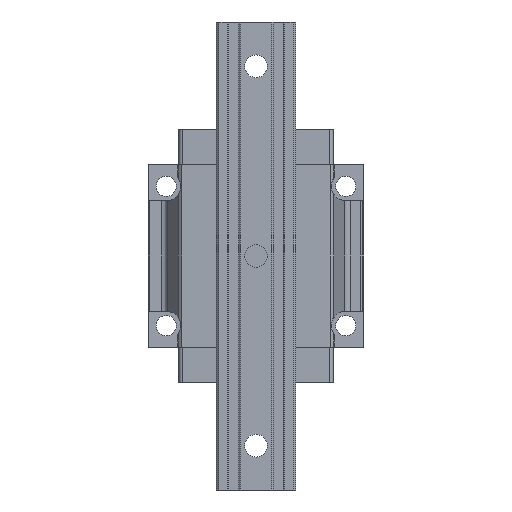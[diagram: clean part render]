
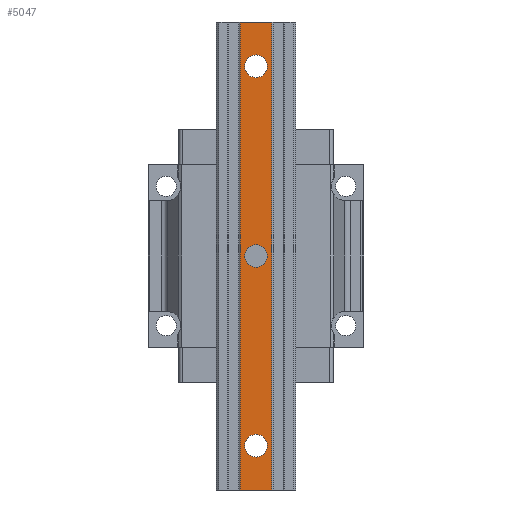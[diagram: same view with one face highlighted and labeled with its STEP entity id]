
A CAD part, front view. The second image highlights one B-rep face of the part: STEP entity #5047.
In plain terms, the highlighted planar face has unit normal (0, -1, 0).
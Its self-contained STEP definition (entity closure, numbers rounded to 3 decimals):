
#14 = EDGE_CURVE ( 'NONE', #7454, #7795, #1239, .T. ) ;
#118 = CARTESIAN_POINT ( 'NONE',  ( 0., -53., -9. ) ) ;
#141 = CIRCLE ( 'NONE', #6663, 9. ) ;
#345 = DIRECTION ( 'NONE',  ( 0., 1., 0. ) ) ;
#395 = CIRCLE ( 'NONE', #6230, 9. ) ;
#419 = CARTESIAN_POINT ( 'NONE',  ( -12.5, -53., -185. ) ) ;
#452 = CIRCLE ( 'NONE', #6028, 9. ) ;
#472 = DIRECTION ( 'NONE',  ( 0., -1., 0. ) ) ;
#590 = CIRCLE ( 'NONE', #6698, 9. ) ;
#626 = ORIENTED_EDGE ( 'NONE', *, *, #4928, .T. ) ;
#657 = ORIENTED_EDGE ( 'NONE', *, *, #5433, .T. ) ;
#769 = VERTEX_POINT ( 'NONE', #6652 ) ;
#795 = EDGE_CURVE ( 'NONE', #769, #2683, #141, .T. ) ;
#863 = VECTOR ( 'NONE', #6960, 1000. ) ;
#890 = CARTESIAN_POINT ( 'NONE',  ( 0., -53., -185. ) ) ;
#1092 = AXIS2_PLACEMENT_3D ( 'NONE', #6491, #3966, #3248 ) ;
#1153 = PLANE ( 'NONE',  #2312 ) ;
#1239 = LINE ( 'NONE', #3319, #4978 ) ;
#1393 = DIRECTION ( 'NONE',  ( 0., 0., 1. ) ) ;
#1467 = DIRECTION ( 'NONE',  ( 0., 0., 1. ) ) ;
#1584 = CARTESIAN_POINT ( 'NONE',  ( 0., -53., 0. ) ) ;
#1669 = DIRECTION ( 'NONE',  ( 0., 1., 0. ) ) ;
#2003 = DIRECTION ( 'NONE',  ( 1., 0., 0. ) ) ;
#2113 = CARTESIAN_POINT ( 'NONE',  ( -12.5, -53., 185. ) ) ;
#2117 = ORIENTED_EDGE ( 'NONE', *, *, #3496, .T. ) ;
#2138 = VERTEX_POINT ( 'NONE', #4570 ) ;
#2226 = EDGE_CURVE ( 'NONE', #5924, #7795, #7592, .T. ) ;
#2297 = VERTEX_POINT ( 'NONE', #118 ) ;
#2312 = AXIS2_PLACEMENT_3D ( 'NONE', #2494, #472, #3049 ) ;
#2403 = ORIENTED_EDGE ( 'NONE', *, *, #7449, .T. ) ;
#2494 = CARTESIAN_POINT ( 'NONE',  ( -12.5, -53., -185. ) ) ;
#2683 = VERTEX_POINT ( 'NONE', #6053 ) ;
#2919 = ORIENTED_EDGE ( 'NONE', *, *, #6710, .T. ) ;
#3049 = DIRECTION ( 'NONE',  ( 0., 0., -1. ) ) ;
#3091 = CARTESIAN_POINT ( 'NONE',  ( -12.5, -53., -185. ) ) ;
#3134 = FACE_BOUND ( 'NONE', #4392, .T. ) ;
#3187 = EDGE_CURVE ( 'NONE', #4136, #7454, #6707, .T. ) ;
#3248 = DIRECTION ( 'NONE',  ( 0., 0., 1. ) ) ;
#3319 = CARTESIAN_POINT ( 'NONE',  ( 12.5, -53., -185. ) ) ;
#3432 = ORIENTED_EDGE ( 'NONE', *, *, #14, .T. ) ;
#3469 = VECTOR ( 'NONE', #2003, 1000. ) ;
#3496 = EDGE_CURVE ( 'NONE', #2138, #2297, #590, .T. ) ;
#3572 = ORIENTED_EDGE ( 'NONE', *, *, #2226, .F. ) ;
#3597 = CARTESIAN_POINT ( 'NONE',  ( 0., -53., 185. ) ) ;
#3782 = CARTESIAN_POINT ( 'NONE',  ( 0., -53., 141. ) ) ;
#3803 = LINE ( 'NONE', #3091, #863 ) ;
#3806 = ORIENTED_EDGE ( 'NONE', *, *, #795, .T. ) ;
#3966 = DIRECTION ( 'NONE',  ( 0., 1., 0. ) ) ;
#4125 = AXIS2_PLACEMENT_3D ( 'NONE', #8137, #1669, #4918 ) ;
#4136 = VERTEX_POINT ( 'NONE', #419 ) ;
#4239 = EDGE_LOOP ( 'NONE', ( #626, #2919 ) ) ;
#4261 = DIRECTION ( 'NONE',  ( 0., 0., 1. ) ) ;
#4362 = CARTESIAN_POINT ( 'NONE',  ( 12.5, -53., -185. ) ) ;
#4392 = EDGE_LOOP ( 'NONE', ( #2117, #657 ) ) ;
#4405 = VERTEX_POINT ( 'NONE', #5588 ) ;
#4570 = CARTESIAN_POINT ( 'NONE',  ( 0., -53., 9. ) ) ;
#4723 = EDGE_LOOP ( 'NONE', ( #3806, #2403 ) ) ;
#4806 = ORIENTED_EDGE ( 'NONE', *, *, #3187, .T. ) ;
#4918 = DIRECTION ( 'NONE',  ( 0., 0., 1. ) ) ;
#4928 = EDGE_CURVE ( 'NONE', #4405, #5364, #395, .T. ) ;
#4978 = VECTOR ( 'NONE', #5920, 1000. ) ;
#5047 = ADVANCED_FACE ( 'NONE', ( #3134, #5053, #5729, #6332 ), #1153, .T. ) ;
#5053 = FACE_BOUND ( 'NONE', #4239, .T. ) ;
#5359 = DIRECTION ( 'NONE',  ( 1., 0., 0. ) ) ;
#5364 = VERTEX_POINT ( 'NONE', #3782 ) ;
#5367 = CIRCLE ( 'NONE', #4125, 9. ) ;
#5389 = DIRECTION ( 'NONE',  ( 0., 1., 0. ) ) ;
#5412 = DIRECTION ( 'NONE',  ( 0., 1., 0. ) ) ;
#5433 = EDGE_CURVE ( 'NONE', #2297, #2138, #6914, .T. ) ;
#5588 = CARTESIAN_POINT ( 'NONE',  ( 0., -53., 159. ) ) ;
#5708 = CARTESIAN_POINT ( 'NONE',  ( 12.5, -53., 185. ) ) ;
#5729 = FACE_BOUND ( 'NONE', #4723, .T. ) ;
#5920 = DIRECTION ( 'NONE',  ( 0., 0., 1. ) ) ;
#5924 = VERTEX_POINT ( 'NONE', #2113 ) ;
#5936 = CARTESIAN_POINT ( 'NONE',  ( 0., -53., -150. ) ) ;
#6028 = AXIS2_PLACEMENT_3D ( 'NONE', #6258, #6389, #4261 ) ;
#6053 = CARTESIAN_POINT ( 'NONE',  ( 0., -53., -159. ) ) ;
#6230 = AXIS2_PLACEMENT_3D ( 'NONE', #7264, #5412, #1467 ) ;
#6258 = CARTESIAN_POINT ( 'NONE',  ( 0., -53., 150. ) ) ;
#6332 = FACE_OUTER_BOUND ( 'NONE', #7119, .T. ) ;
#6389 = DIRECTION ( 'NONE',  ( 0., 1., 0. ) ) ;
#6491 = CARTESIAN_POINT ( 'NONE',  ( 0., -53., 0. ) ) ;
#6652 = CARTESIAN_POINT ( 'NONE',  ( 0., -53., -141. ) ) ;
#6663 = AXIS2_PLACEMENT_3D ( 'NONE', #5936, #5389, #1393 ) ;
#6698 = AXIS2_PLACEMENT_3D ( 'NONE', #1584, #345, #8099 ) ;
#6707 = LINE ( 'NONE', #890, #7785 ) ;
#6710 = EDGE_CURVE ( 'NONE', #5364, #4405, #452, .T. ) ;
#6914 = CIRCLE ( 'NONE', #1092, 9. ) ;
#6960 = DIRECTION ( 'NONE',  ( 0., 0., -1. ) ) ;
#7119 = EDGE_LOOP ( 'NONE', ( #3432, #3572, #8068, #4806 ) ) ;
#7264 = CARTESIAN_POINT ( 'NONE',  ( 0., -53., 150. ) ) ;
#7449 = EDGE_CURVE ( 'NONE', #2683, #769, #5367, .T. ) ;
#7454 = VERTEX_POINT ( 'NONE', #4362 ) ;
#7592 = LINE ( 'NONE', #3597, #3469 ) ;
#7785 = VECTOR ( 'NONE', #5359, 1000. ) ;
#7795 = VERTEX_POINT ( 'NONE', #5708 ) ;
#8068 = ORIENTED_EDGE ( 'NONE', *, *, #8316, .T. ) ;
#8099 = DIRECTION ( 'NONE',  ( 0., 0., 1. ) ) ;
#8137 = CARTESIAN_POINT ( 'NONE',  ( 0., -53., -150. ) ) ;
#8316 = EDGE_CURVE ( 'NONE', #5924, #4136, #3803, .T. ) ;
